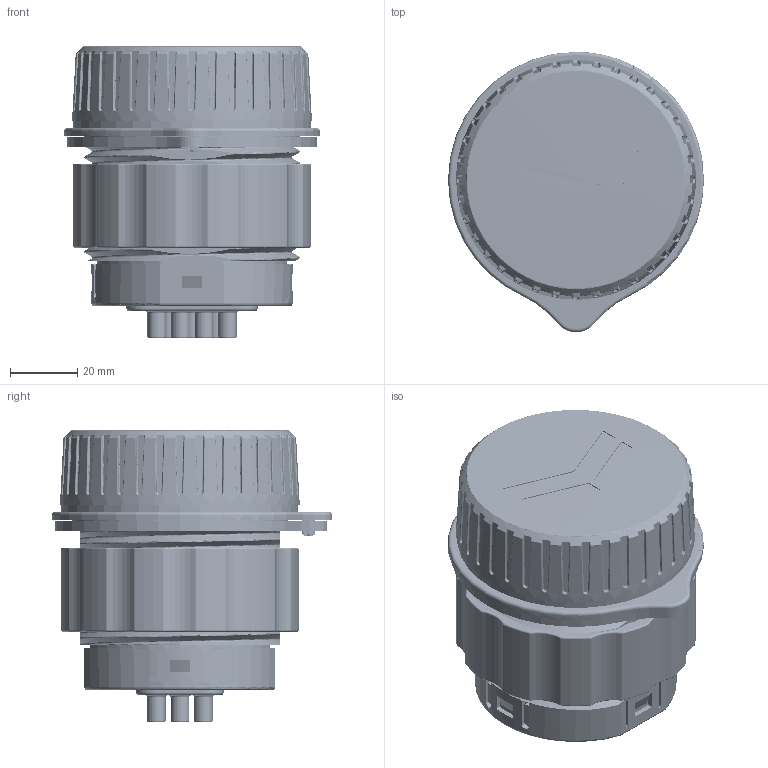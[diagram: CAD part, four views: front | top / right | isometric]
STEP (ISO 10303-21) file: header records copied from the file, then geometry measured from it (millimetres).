
FILE_DESCRIPTION((''),'2;1');
FILE_NAME('BACKUUP_PANEL_210309_ASM','2021-05-26T',('999D2126'),('YANMAR POWER TECHNOLOGY Co., Ltd.'),'PRO/ENGINEER BY PARAMETRIC TECHNOLOGY CORPORATION, 2017170','PRO/ENGINEER BY PARAMETRIC TECHNOLOGY CORPORATION, 2017170','');
FILE_SCHEMA(('CONFIG_CONTROL_DESIGN'));
Products named in the file (24): FB169-201_01; 0104BA-203; 0104BA-705; 0104B-301_X; M2011_X; M2018_X; M2040_X; SML-D15UW_C_; RK09K1130-15; 0104BA-081_ASM; 0104BA-701; 01518ZB-501_X; CZ177-207; FB169-205_01; CM63-702_1; 0104BA-301; ORING; 0104BA-702; CZ177-205; FB169-202_00; 0104BC_MIN_ASSY_ASM; DESIGN1_ASM; FB169-204; BACKUUP_PANEL_210309_ASM
Assembly tree (23 placements, depth 5):
  BACKUUP_PANEL_210309_ASM
    DESIGN1_ASM
      0104BC_MIN_ASSY_ASM
        FB169-201_01
        0104BA-203
        0104BA-705
        0104BA-081_ASM
          0104B-301_X
          M2011_X
          M2018_X
          M2040_X
          SML-D15UW_C_
          RK09K1130-15
        0104BA-701
        01518ZB-501_X
        CZ177-207
        FB169-205_01
        CM63-702_1
        0104BA-301
        ORING
        0104BA-702
        CZ177-205
        FB169-202_00
    FB169-204
Bounding box: 76 x 83.23 x 86.95 mm (x, y, z)
Volume: 129313.5 mm3; surface area: 114856.3 mm2
Topology: 20 solids, 52 shells, 3902 faces, 11918 edges, 8122 vertices
Faces by surface type: bspline 1377, cylinder 955, plane 867, torus 456, cone 179, sphere 68
Entity records: 281975 total; most frequent: CARTESIAN_POINT 183688, ORIENTED_EDGE 21473, DIRECTION 17339, EDGE_CURVE 11834, VERTEX_POINT 8122, AXIS2_PLACEMENT_3D 5971, VECTOR 5397, LINE 5397
